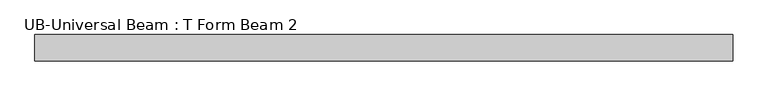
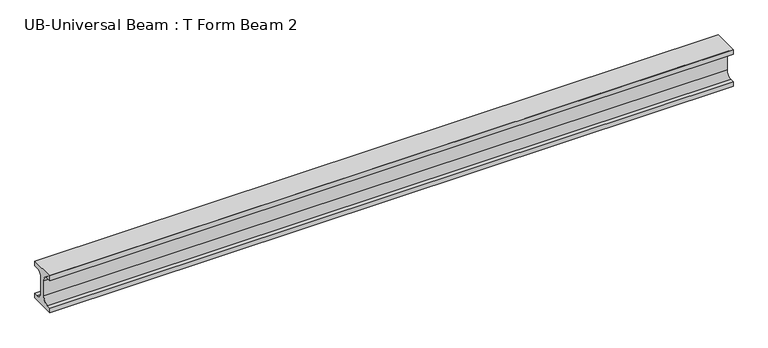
"""IFC4 building model written with IfcOpenShell, lengths in millimetres: beam geometry, UB-Universal Beam : T Form Beam 2."""

import ifcopenshell
import ifcopenshell.guid

model = None  # the IFC model being written
_history = None  # IfcOwnerHistory: only IFC2X3 demands one
_inside = {}  # id of a spatial element -> (the spatial element, [elements in it])
_under = {}  # id of a project, library or spatial element -> (it, [spatial elements below it])
_declared = {}  # id of a project -> (the project, [libraries it declares])
_typed = {}  # id of a type object -> (the type object, [elements of that type])
_made_of = {}  # id of a material, layer set ... -> (it, [elements and type objects made of it])


def new_model(schema):
    """Start an empty IFC model of exactly this schema.

    Asked for "IFC4X3", IfcOpenShell would pick the latest addendum, in which some entities
    have other attributes; the version numbers below select the first issue.
    IFC2X3 requires an IfcOwnerHistory on every rooted entity: one is made here for all.
    """
    global model, _history
    if schema == "IFC4X3":
        model = ifcopenshell.file(schema_version=(4, 3, 0, 0))
    else:
        model = ifcopenshell.file(schema=schema)
    _inside.clear()
    _under.clear()
    _declared.clear()
    _typed.clear()
    _made_of.clear()
    _history = None
    if model.schema == "IFC2X3":
        org = make("IfcOrganization", Name="unknown")
        user = make(
            "IfcPersonAndOrganization",
            ThePerson=make("IfcPerson", FamilyName="unknown"),
            TheOrganization=org,
        )
        app = make(
            "IfcApplication",
            ApplicationDeveloper=org,
            Version="unknown",
            ApplicationFullName="unknown",
            ApplicationIdentifier="unknown",
        )
        _history = make(
            "IfcOwnerHistory",
            OwningUser=user,
            OwningApplication=app,
            ChangeAction="ADDED",
            CreationDate=0,
        )
    return model


def make(cls, **values):
    """One entity of the class cls with the attributes given. An attribute that is None is left unset."""
    return model.create_entity(
        cls, **{name: value for name, value in values.items() if value is not None}
    )


def rooted(cls, **values):
    """An entity with a GlobalId (a new one), such as an element, a storey or a relation."""
    return make(cls, GlobalId=ifcopenshell.guid.new(), OwnerHistory=_history, **values)


def si_unit(unit_type, name, prefix=None):
    """IfcSIUnit, for example si_unit("LENGTHUNIT", "METRE", prefix="MILLI")."""
    return make("IfcSIUnit", UnitType=unit_type, Prefix=prefix, Name=name)


def assignment(units):
    """IfcUnitAssignment: the units of a project."""
    return None if units is None else make("IfcUnitAssignment", Units=units)


def point(xyz):
    """IfcCartesianPoint."""
    return None if xyz is None else make("IfcCartesianPoint", Coordinates=xyz)


def direction(xyz):
    """IfcDirection."""
    return None if xyz is None else make("IfcDirection", DirectionRatios=xyz)


def frame(location, z_axis=None, x_axis=None):
    """IfcAxis2Placement3D, a coordinate frame: its origin and axes. An axis left out is left unset."""
    return make(
        "IfcAxis2Placement3D",
        Location=point(location),
        Axis=direction(z_axis),
        RefDirection=direction(x_axis),
    )


def frame_2d(location, x_axis=None):
    """IfcAxis2Placement2D, a coordinate frame in the plane: its origin and x axis."""
    return make(
        "IfcAxis2Placement2D", Location=point(location), RefDirection=direction(x_axis)
    )


def origin():
    """The frame at (0, 0, 0) with its axes left unset."""
    return frame((0.0, 0.0, 0.0))


def place(relative_to, where):
    """IfcLocalPlacement: puts the frame where relative to a parent placement (None: the world)."""
    return make(
        "IfcLocalPlacement", PlacementRelTo=relative_to, RelativePlacement=where
    )


def context(
    kind, dimensions, precision=None, world=None, true_north=None, identifier=None
):
    """IfcGeometricRepresentationContext, for example the 3D "Model" context."""
    return make(
        "IfcGeometricRepresentationContext",
        ContextIdentifier=identifier,
        ContextType=kind,
        CoordinateSpaceDimension=dimensions,
        Precision=precision,
        WorldCoordinateSystem=world,
        TrueNorth=true_north,
    )


def project(units=None, contexts=None):
    """IfcProject with its units and contexts."""
    return rooted(
        "IfcProject",
        Name="project",
        RepresentationContexts=contexts,
        UnitsInContext=assignment(units),
    )


def spatial(cls, under=None, at=None, **own):
    """A site, building, storey or space (cls), placed at a placement, below another one or the project."""
    s = rooted(cls, ObjectPlacement=at, **own)
    if under is not None:
        _under.setdefault(under.id(), (under, []))[1].append(s)
    return s


def polyline(points):
    """IfcPolyline through the points."""
    return make("IfcPolyline", Points=[point(p) for p in points])


def circle_curve(where, radius):
    """IfcCircle in the frame where."""
    return make("IfcCircle", Position=where, Radius=radius)


def trimmed(basis, trim1, trim2, sense, master):
    """IfcTrimmedCurve: the piece of a basis curve between two trims."""
    return make(
        "IfcTrimmedCurve",
        BasisCurve=basis,
        Trim1=trim1,
        Trim2=trim2,
        SenseAgreement=sense,
        MasterRepresentation=master,
    )


def segment(curve, same_sense, transition):
    """IfcCompositeCurveSegment."""
    return make(
        "IfcCompositeCurveSegment",
        Transition=transition,
        SameSense=same_sense,
        ParentCurve=curve,
    )


def composite_curve(segments, self_intersect=None):
    """IfcCompositeCurve: segments joined end to end."""
    return make("IfcCompositeCurve", Segments=segments, SelfIntersect=self_intersect)


def outline(outer, holes=None, kind="AREA"):
    """IfcArbitraryClosedProfileDef: a profile drawn as a closed curve; with holes, ...WithVoids."""
    if holes is None:
        return make("IfcArbitraryClosedProfileDef", ProfileType=kind, OuterCurve=outer)
    return make(
        "IfcArbitraryProfileDefWithVoids",
        ProfileType=kind,
        OuterCurve=outer,
        InnerCurves=holes,
    )


def extrude(swept, where, along, depth):
    """IfcExtrudedAreaSolid: the profile swept, set in the frame where, extruded along a direction by depth."""
    return make(
        "IfcExtrudedAreaSolid",
        SweptArea=swept,
        Position=where,
        ExtrudedDirection=direction(along),
        Depth=depth,
    )


def shape(context_of_items, identifier, shape_type, items):
    """IfcShapeRepresentation: the items that make up one representation, for example the "Body"."""
    return make(
        "IfcShapeRepresentation",
        ContextOfItems=context_of_items,
        RepresentationIdentifier=identifier,
        RepresentationType=shape_type,
        Items=items,
    )


def source(mapping_origin, context_of_items, identifier, shape_type, items):
    """IfcRepresentationMap: a shape defined once, which mapped items show again and again."""
    return make(
        "IfcRepresentationMap",
        MappingOrigin=mapping_origin,
        MappedRepresentation=shape(context_of_items, identifier, shape_type, items),
    )


def transform(
    local_origin,
    x_axis=None,
    y_axis=None,
    z_axis=None,
    scale=None,
    scale2=None,
    scale3=None,
    uniform=True,
):
    """IfcCartesianTransformationOperator3D, or its non-uniform kind. x_axis, y_axis, z_axis: its Axis1, 2, 3."""
    if uniform:
        return make(
            "IfcCartesianTransformationOperator3D",
            Axis1=direction(x_axis),
            Axis2=direction(y_axis),
            LocalOrigin=point(local_origin),
            Scale=scale,
            Axis3=direction(z_axis),
        )
    return make(
        "IfcCartesianTransformationOperator3DnonUniform",
        Axis1=direction(x_axis),
        Axis2=direction(y_axis),
        LocalOrigin=point(local_origin),
        Scale=scale,
        Axis3=direction(z_axis),
        Scale2=scale2,
        Scale3=scale3,
    )


def mapped(mapping_source, mapping_target):
    """IfcMappedItem: shows the shape of a source again, moved by a transform."""
    return make(
        "IfcMappedItem", MappingSource=mapping_source, MappingTarget=mapping_target
    )


def made_of(thing, what):
    """Note that an element or type object is made of a material, layer set ...; save() writes the relation."""
    if what is not None:
        _made_of.setdefault(what.id(), (what, []))[1].append(thing)
    return thing


def element(
    cls,
    number,
    at=None,
    inside=None,
    cuts=None,
    type_object=None,
    material=None,
    context=None,
    identifier="Body",
    shape_type=None,
    held_by="IfcProductDefinitionShape",
    body=None,
    shapes=None,
    **own,
):
    """One element of the class cls, such as IfcWall. Its Tag is "e" and its number.

    at: its placement. inside: the storey or other place that contains it. cuts: it is an
    opening in that element (IfcRelVoidsElement). A single representation is given by context,
    identifier, shape_type and body (its items); several are given by shapes. held_by: the class
    of the entity that holds the representations. save() writes the other relations.
    """
    e = rooted(cls, Tag="e%d" % number, ObjectPlacement=at, **own)
    if body is not None:
        shapes = [shape(context, identifier, shape_type, body)]
    if shapes is not None:
        e.Representation = make(held_by, Representations=shapes)
    if inside is not None:
        _inside.setdefault(inside.id(), (inside, []))[1].append(e)
    if cuts is not None:
        rooted(
            "IfcRelVoidsElement", RelatingBuildingElement=cuts, RelatedOpeningElement=e
        )
    if type_object is not None:
        _typed.setdefault(type_object.id(), (type_object, []))[1].append(e)
    return made_of(e, material)


def aggregate(whole, parts):
    """IfcRelAggregates: a whole, such as a stair, and the parts it consists of."""
    return rooted("IfcRelAggregates", RelatingObject=whole, RelatedObjects=parts)


def save(model, path):
    """Write the relations noted so far, then the file.

    IfcRelAggregates (storeys below a building ...), IfcRelContainedInSpatialStructure (elements
    in a storey), IfcRelDefinesByType, IfcRelAssociatesMaterial and IfcRelDeclares: one each for
    every whole, place, type object, material and project.
    """
    for whole, parts in _under.values():
        aggregate(whole, parts)
    for where, things in _inside.values():
        rooted(
            "IfcRelContainedInSpatialStructure",
            RelatedElements=things,
            RelatingStructure=where,
        )
    for kind, things in _typed.values():
        rooted("IfcRelDefinesByType", RelatedObjects=things, RelatingType=kind)
    for what, things in _made_of.values():
        rooted("IfcRelAssociatesMaterial", RelatedObjects=things, RelatingMaterial=what)
    for by, libraries in _declared.values():
        rooted("IfcRelDeclares", RelatingContext=by, RelatedDefinitions=libraries)
    model.write(path)


def ub_universal_beam_t_form_beam_2_c3915af9(model_context):
    return source(origin(), model_context, "Body", "SweptSolid", [
        extrude(outline(composite_curve([segment(polyline([(203.2, -228.6), (203.2, -304.8), (-203.2, -304.8), (-203.2, -228.6), (-139.7, -228.6)]), True, "CONTINUOUS"), segment(trimmed(circle_curve(frame_2d((-139.7, -127.0)), 101.6), [point((-139.7, -228.6))], [point((-38.1, -127.0))], True, "CARTESIAN"), True, "CONTINUOUS"), segment(polyline([(-38.1, -127.0), (-38.1, 127.0)]), True, "CONTINUOUS"), segment(trimmed(circle_curve(frame_2d((-139.7, 127.0)), 101.6), [point((-38.1, 127.0))], [point((-139.7, 228.6))], True, "CARTESIAN"), True, "CONTINUOUS"), segment(polyline([(-139.7, 228.6), (-203.2, 228.6), (-203.2, 304.8), (203.2, 304.8), (203.2, 228.6), (139.7, 228.6)]), True, "CONTINUOUS"), segment(trimmed(circle_curve(frame_2d((139.7, 127.0)), 101.6), [point((139.7, 228.6))], [point((38.1, 127.0))], True, "CARTESIAN"), True, "CONTINUOUS"), segment(polyline([(38.1, 127.0), (38.1, -127.0)]), True, "CONTINUOUS"), segment(trimmed(circle_curve(frame_2d((139.7, -127.0)), 101.6), [point((38.1, -127.0))], [point((139.7, -228.6))], True, "CARTESIAN"), True, "CONTINUOUS"), segment(polyline([(139.7, -228.6), (203.2, -228.6)]), True, "CONTINUOUS")], self_intersect=False)), frame((-5481.4757277, 0.0, 0.0), z_axis=(1.0, 0.0, 0.0), x_axis=(0.0, 1.0, 0.0)), (0.0, 0.0, 1.0), 10747.7940545),
    ])


if __name__ == "__main__":
    model = new_model("IFC4")
    model_context = context("Model", 3, world=origin())
    ifc_project = project(units=[si_unit("LENGTHUNIT", "METRE", prefix="MILLI")], contexts=[model_context])
    site = spatial("IfcSite", under=ifc_project)
    building = spatial("IfcBuilding", under=site)
    placement = place(None, origin())
    ub_universal_beam_t_form_beam_2_shape = ub_universal_beam_t_form_beam_2_c3915af9(model_context)
    element("IfcBeam", 1, ObjectType="UB-Universal Beam : T Form Beam 2", at=placement, inside=building, context=model_context, shape_type="MappedRepresentation", body=[
        mapped(ub_universal_beam_t_form_beam_2_shape, transform((0.0, 0.0, 0.0), x_axis=(1.0, 0.0, 0.0), y_axis=(0.0, 1.0, 0.0), z_axis=(0.0, 0.0, 1.0))),
    ])
    save(model, "model.ifc")
